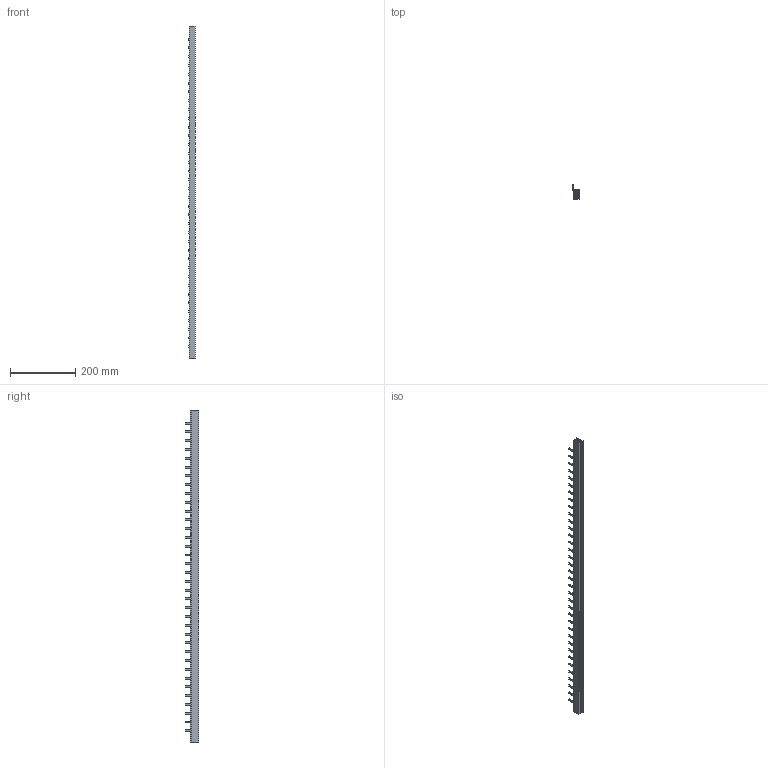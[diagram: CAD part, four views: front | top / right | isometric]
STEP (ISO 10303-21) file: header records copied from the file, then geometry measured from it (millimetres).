
FILE_DESCRIPTION (( 'STEP AP214' ), '1' );
FILE_NAME ('S3L-27-1000-25.step', '2011-08-12T10:34:27', ( 'Radek Veselý' ), ( 'Siemens and Partners' ), 'SwSTEP 2.0', 'SolidWorks 2006303', '' );
FILE_SCHEMA (( 'AUTOMOTIVE_DESIGN' ));
Length unit declared in the file: millimetre
Products named in the file (1): S3L-27-1000-25
Bounding box: 19.64 x 42 x 1020 mm (x, y, z)
Volume: 260582.5 mm3; surface area: 384526.9 mm2
Topology: 4 solids, 4 shells, 655 faces, 1797 edges, 1150 vertices
Faces by surface type: cylinder 343, plane 312
Entity records: 27800 total; most frequent: CARTESIAN_POINT 4035, ORIENTED_EDGE 3594, DIRECTION 3363, EDGE_CURVE 1797, VECTOR 1255, LINE 1255, VERTEX_POINT 1150, AXIS2_PLACEMENT_3D 1054
